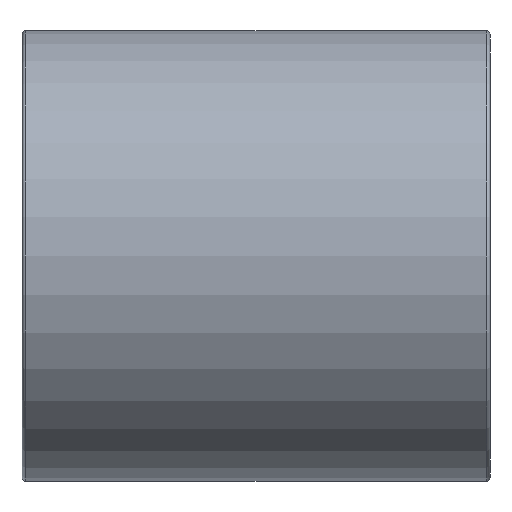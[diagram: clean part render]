
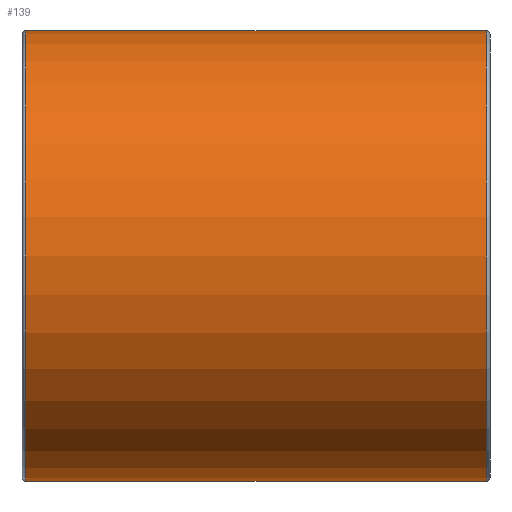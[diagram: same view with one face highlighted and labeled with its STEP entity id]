
A CAD part, front view. The second image highlights one B-rep face of the part: STEP entity #139.
In plain terms, the highlighted cylindrical face has radius 52 mm (diameter 104 mm), a full revolution.
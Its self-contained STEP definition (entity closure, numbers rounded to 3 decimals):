
#16=CYLINDRICAL_SURFACE('',#158,52.);
#27=FACE_BOUND('',#56,.T.);
#39=FACE_OUTER_BOUND('',#55,.T.);
#55=EDGE_LOOP('',(#115));
#56=EDGE_LOOP('',(#116));
#75=CIRCLE('',#157,52.);
#76=CIRCLE('',#159,52.);
#87=VERTEX_POINT('',#236);
#88=VERTEX_POINT('',#239);
#99=EDGE_CURVE('',#87,#87,#75,.T.);
#100=EDGE_CURVE('',#88,#88,#76,.T.);
#115=ORIENTED_EDGE('',*,*,#100,.F.);
#116=ORIENTED_EDGE('',*,*,#99,.F.);
#139=ADVANCED_FACE('',(#39,#27),#16,.T.);
#157=AXIS2_PLACEMENT_3D('',#237,#191,#192);
#158=AXIS2_PLACEMENT_3D('',#238,#193,#194);
#159=AXIS2_PLACEMENT_3D('',#240,#195,#196);
#191=DIRECTION('center_axis',(-1.,0.,0.));
#192=DIRECTION('ref_axis',(0.,-1.,0.));
#193=DIRECTION('center_axis',(1.,0.,0.));
#194=DIRECTION('ref_axis',(0.,1.,0.));
#195=DIRECTION('center_axis',(1.,0.,0.));
#196=DIRECTION('ref_axis',(0.,-1.,0.));
#236=CARTESIAN_POINT('',(-53.1,52.,0.));
#237=CARTESIAN_POINT('Origin',(-53.1,0.,0.));
#238=CARTESIAN_POINT('Origin',(0.,0.,
0.));
#239=CARTESIAN_POINT('',(53.1,52.,0.));
#240=CARTESIAN_POINT('Origin',(53.1,0.,0.));
